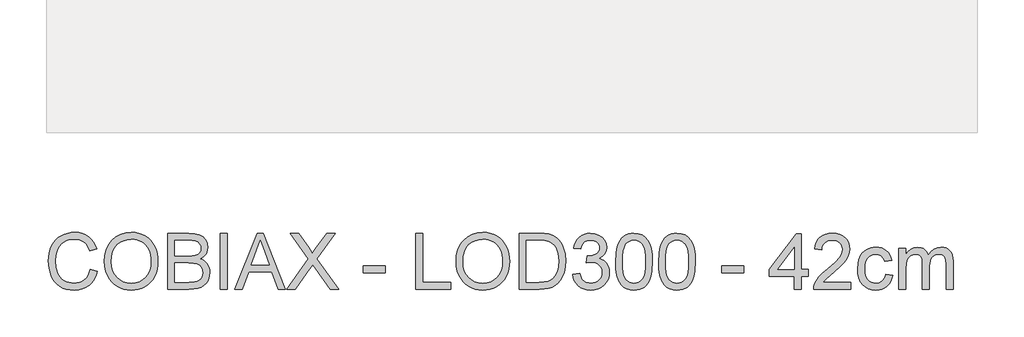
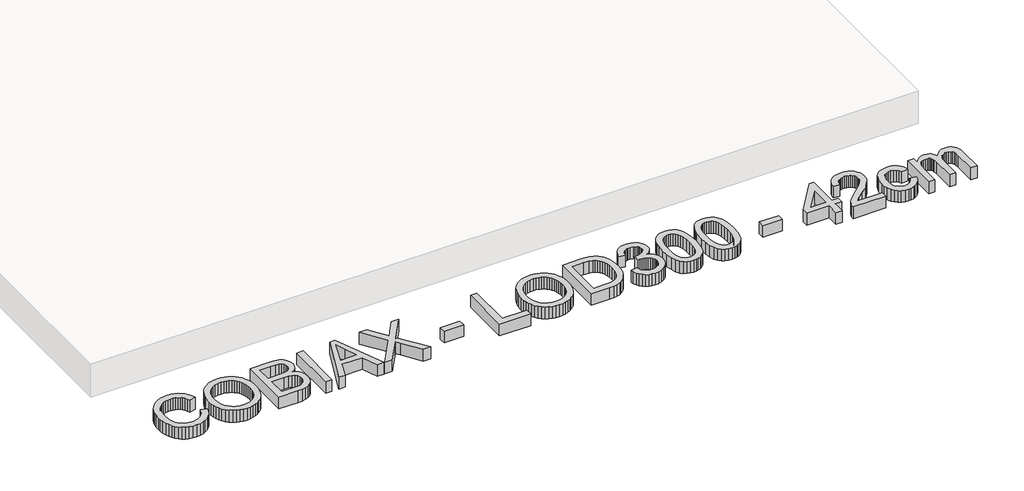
# One storey, part 2 of 18: 1 proxy.
"""IFC4 building model written with IfcOpenShell, lengths in millimetres."""

from ifc_helpers import new_model, si_unit, origin, origin_with_axes, place, context, project, spatial, polyline, outline, extrude, element, save

model = new_model("IFC4")

# Units and contexts
model_context = context("Model", 3, world=origin())
ifc_project = project(units=[si_unit("LENGTHUNIT", "METRE", prefix="MILLI")], contexts=[model_context])

# Site, building, storey
site = spatial("IfcSite", under=ifc_project)
building = spatial("IfcBuilding", under=site)
storey = spatial("IfcBuildingStorey", under=building, Name="COBIAX Slabs", Elevation=0.0)

# Proxy
placement = place(None, origin())
element("IfcBuildingElementProxy", 1, Name="600mm Arial", ObjectType="600mm Arial", at=placement, inside=storey, context=model_context, shape_type="SweptSolid", body=[
    extrude(outline(polyline([(-20201.7846047, -42740.3003464), (-20126.4423721, -42759.7245158), (-20141.35079, -42806.5788864), (-20161.2072206, -42847.5195539), (-20186.0116642, -42882.5465184), (-20215.7641205, -42911.6597798), (-20249.7932051, -42934.5466384), (-20287.4275332, -42950.8943946), (-20328.6671048, -42960.7030482), (-20373.5119201, -42963.9725995), (-20419.4557827, -42961.4985931), (-20460.902288, -42954.0765738), (-20497.8514359, -42941.7065417), (-20530.3032264, -42924.3884968), (-20558.7037164, -42902.3799564), (-20583.4989629, -42875.938438), (-20604.6889658, -42845.0639416), (-20622.2737252, -42809.7564671), (-20636.0830956, -42771.5427249), (-20645.9469316, -42731.9494251), (-20651.8652332, -42690.9765679), (-20653.8380004, -42648.6241532), (-20651.6077158, -42603.1815298), (-20644.916862, -42560.7371446), (-20633.765439, -42521.2909976), (-20618.1534469, -42484.843089), (-20598.4303734, -42451.9958253), (-20574.9457065, -42423.3516135), (-20547.6994462, -42398.9104534), (-20516.6915926, -42378.6723452), (-20482.9752077, -42362.8028356), (-20447.6033539, -42351.4674716), (-20410.5760311, -42344.6662532), (-20371.8932393, -42342.3991804), (-20328.8004621, -42345.3330393), (-20289.2853373, -42354.1346161), (-20253.3478649, -42368.8039106), (-20220.9880449, -42389.340923), (-20192.7393062, -42415.2030273), (-20169.1350776, -42445.8475975), (-20150.1753593, -42481.2746336), (-20135.8601512, -42521.4841357), (-20211.2023838, -42539.436777), (-20223.0665781, -42509.8084809), (-20237.3220054, -42484.4936011), (-20253.9686657, -42463.4921377), (-20273.006559, -42446.8040907), (-20294.5460498, -42434.0891692), (-20318.6975028, -42425.0070824), (-20345.4609179, -42419.5578304), (-20374.8362952, -42417.741413), (-20408.6354535, -42419.755567), (-20439.5467382, -42425.7980287), (-20467.5701492, -42435.8687984), (-20492.7056865, -42449.9678758), (-20514.6360519, -42467.4606647), (-20533.0439473, -42487.7125685), (-20547.9293725, -42510.7235873), (-20559.2923276, -42536.4937211), (-20573.6949077, -42591.6392322), (-20578.4957678, -42648.4770004), (-20572.8119909, -42718.0802739), (-20565.7072699, -42749.3502435), (-20555.7606605, -42778.2657683), (-20542.8112142, -42804.2520328), (-20526.6979829, -42826.7342212), (-20507.4209663, -42845.7123336), (-20484.9801646, -42861.18637), (-20460.4654281, -42873.1931186), (-20434.9666074, -42881.7693677), (-20408.4837022, -42886.9151171), (-20381.0167128, -42888.6303669), (-20348.2614196, -42886.2943162), (-20318.1272857, -42879.2861642), (-20290.614311, -42867.6059108), (-20265.7224955, -42851.2535562), (-20244.0404504, -42830.3026765), (-20226.1567869, -42804.8268484), (-20212.071505, -42774.8260717), (-20201.7846047, -42740.3003464)])), origin_with_axes(), (0.0, 0.0, 1.0), 150.0),
    extrude(outline(polyline([(-20051.1001395, -42661.1321411), (-20046.0785503, -42590.4344186), (-20031.0137825, -42527.8484942), (-20005.9058364, -42473.3743678), (-19989.5856714, -42449.1792288), (-19970.7547117, -42427.0120393), (-19927.6665331, -42389.9939136), (-19878.7474247, -42363.5523952), (-19823.9973868, -42347.6874841), (-19763.4164193, -42342.3991804), (-19722.8666263, -42344.8823839), (-19684.3585785, -42352.3319943), (-19647.8922757, -42364.7480116), (-19613.467718, -42382.1304359), (-19582.0505956, -42403.9550353), (-19554.6065988, -42429.6975779), (-19531.1357275, -42459.3580637), (-19511.6379818, -42492.9364929), (-19496.3156967, -42529.6695101), (-19485.3712073, -42568.7937603), (-19478.8045137, -42610.3092434), (-19476.6156158, -42654.2159595), (-19478.9194768, -42698.7020898), (-19485.8310598, -42740.778593), (-19497.3503648, -42780.4454691), (-19513.4773917, -42817.7027182), (-19533.8304631, -42851.5662559), (-19558.0279014, -42881.0519978), (-19586.0697064, -42906.1599439), (-19617.9558784, -42926.8900944), (-19652.4310198, -42943.1136904), (-19688.2397335, -42954.7019732), (-19725.3820195, -42961.6549429), (-19763.8578777, -42963.9725995), (-19805.1158434, -42961.4112211), (-19844.129729, -42953.7270859), (-19880.8995344, -42940.920194), (-19915.4252597, -42922.9905452), (-19946.8055939, -42900.632517), (-19974.1392261, -42874.5404865), (-19997.4261564, -42844.7144537), (-20016.6663847, -42811.1544187), (-20031.7311524, -42775.2077492), (-20042.4917008, -42738.2218131), (-20048.9480298, -42700.1966104), (-20051.1001395, -42661.1321411)]), holes=[polyline([(-19975.7579069, -42661.867905), (-19971.9917149, -42711.8170829), (-19960.6931392, -42756.1560604), (-19941.8621795, -42794.8848374), (-19915.4988361, -42828.0034141), (-19883.4517158, -42854.5277059), (-19847.5694257, -42873.4736287), (-19807.8519657, -42884.8411823), (-19764.299336, -42888.6303669), (-19720.0017453, -42884.8043941), (-19679.8152359, -42873.3264759), (-19643.7398077, -42854.1966121), (-19611.7754608, -42827.4148029), (-19585.6052554, -42793.5972505), (-19566.9122515, -42753.3601572), (-19555.6964492, -42706.7035232), (-19551.9578484, -42653.6273484), (-19553.5581351, -42619.1476084), (-19558.3589951, -42586.9303426), (-19566.3604285, -42556.9755512), (-19577.5624353, -42529.283234), (-19591.8408552, -42504.2166745), (-19609.0715282, -42482.1391563), (-19629.2544541, -42463.0506793), (-19652.3896331, -42446.9512435), (-19677.7596952, -42434.1719427), (-19704.6472705, -42425.0438706), (-19733.0523591, -42419.5670274), (-19762.9749609, -42417.741413), (-19805.0146759, -42421.2592846), (-19844.0193644, -42431.8128994), (-19879.9890265, -42449.4022573), (-19912.9236621, -42474.0273583), (-19940.4136442, -42506.874622), (-19960.0493457, -42549.1304676), (-19971.8307666, -42600.7948953), (-19975.7579069, -42661.867905)])]), origin_with_axes(), (0.0, 0.0, 1.0), 150.0),
    extrude(outline(polyline([(-19373.020046, -42954.5548204), (-19373.020046, -42351.8169595), (-19143.0202226, -42351.8169595), (-19079.7629135, -42356.2499375), (-19030.3747557, -42369.5488717), (-19010.2975958, -42379.6058457), (-18992.5196984, -42392.0448557), (-18977.0410634, -42406.8659016), (-18963.8616909, -42424.0689834), (-18945.8170791, -42461.7400997), (-18939.8022085, -42501.1770495), (-18944.8605859, -42537.4686084), (-18960.0357182, -42571.5896634), (-18985.43797, -42601.4432873), (-19021.1777058, -42624.9325527), (-18998.438, -42634.6262433), (-18978.4850002, -42647.2262016), (-18961.3187066, -42662.7324277), (-18946.9391192, -42681.1449216), (-18935.576164, -42701.9026632), (-18927.4597675, -42724.4446324), (-18922.5899296, -42748.7708294), (-18920.9666503, -42774.881254), (-18925.3996283, -42816.9117719), (-18938.6985625, -42855.8888693), (-18958.5457961, -42889.0350371), (-18982.6236727, -42913.5727661), (-19012.1094146, -42931.3414665), (-19048.1802442, -42944.1805481), (-19092.013384, -42951.9612523), (-19144.7860562, -42954.5548204), (-19373.020046, -42954.5548204)]), holes=[polyline([(-19297.6778134, -42596.6792155), (-19160.0899472, -42596.6792155), (-19111.9709822, -42595.0605347), (-19079.7445194, -42590.2044924), (-19051.6199409, -42579.0392738), (-19031.4048253, -42562.3190371), (-19019.2095371, -42540.3012997), (-19015.1444411, -42513.243579), (-19018.9336256, -42486.9768045), (-19030.3011793, -42464.0945444), (-19048.7320672, -42446.2338736), (-19073.7112547, -42435.0318668), (-19112.0445586, -42429.1273608), (-19170.5377958, -42427.1591921), (-19297.6778134, -42427.1591921), (-19297.6778134, -42596.6792155)]), polyline([(-19297.6778134, -42879.2125878), (-19143.1673754, -42879.2125878), (-19087.2493121, -42876.2695318), (-19061.2952374, -42869.7396264), (-19039.9396875, -42859.8619948), (-19022.5756574, -42845.7169321), (-19008.5961416, -42826.3847333), (-18999.3806976, -42802.729921), (-18996.3088829, -42775.617018), (-18999.9141265, -42744.1263192), (-19010.7298571, -42717.0502043), (-19029.6205976, -42695.8785955), (-19057.4508705, -42682.1014148), (-19096.8694263, -42674.5414398), (-19150.5250153, -42672.0214481), (-19297.6778134, -42672.0214481), (-19297.6778134, -42879.2125878)])]), origin_with_axes(), (0.0, 0.0, 1.0), 150.0),
    extrude(outline(polyline([(-18807.9533014, -42954.5548204), (-18807.9533014, -42351.8169595), (-18732.6110688, -42351.8169595), (-18732.6110688, -42954.5548204), (-18807.9533014, -42954.5548204)])), origin_with_axes(), (0.0, 0.0, 1.0), 150.0),
    extrude(outline(polyline([(-18652.1184882, -42954.5548204), (-18411.5236634, -42351.8169595), (-18347.3650434, -42351.8169595), (-18106.7702186, -42954.5548204), (-18186.3798823, -42954.5548204), (-18255.3945446, -42766.1992389), (-18503.641315, -42766.1992389), (-18572.5088245, -42954.5548204), (-18652.1184882, -42954.5548204)]), holes=[polyline([(-18475.9765889, -42690.8570063), (-18282.9121179, -42690.8570063), (-18337.2115004, -42542.6741386), (-18379.4443534, -42427.1591921), (-18416.9683169, -42529.7246924), (-18475.9765889, -42690.8570063)])]), origin_with_axes(), (0.0, 0.0, 1.0), 150.0),
    extrude(outline(polyline([(-18092.2020916, -42954.5548204), (-17859.8478234, -42626.1097751), (-18054.5309753, -42351.8169595), (-17964.1791572, -42351.8169595), (-17854.5503227, -42506.1802447), (-17828.3939128, -42545.2861008), (-17817.6149704, -42566.3657391), (-17774.3520477, -42505.1501751), (-17665.9004356, -42351.8169595), (-17574.2242424, -42351.8169595), (-17768.9073942, -42626.9926919), (-17536.5531261, -42954.5548204), (-17626.9049441, -42954.5548204), (-17781.7096876, -42736.1800681), (-17813.9361504, -42690.8570063), (-17849.3999748, -42740.594652), (-18000.5258984, -42954.5548204), (-18092.2020916, -42954.5548204)])), origin_with_axes(), (0.0, 0.0, 1.0), 150.0),
    extrude(outline(polyline([(-17272.8553119, -42775.617018), (-17272.8553119, -42700.2747853), (-17037.410835, -42700.2747853), (-17037.410835, -42775.617018), (-17272.8553119, -42775.617018)])), origin_with_axes(), (0.0, 0.0, 1.0), 150.0),
    extrude(outline(polyline([(-16707.7885673, -42954.5548204), (-16707.7885673, -42351.8169595), (-16632.4463347, -42351.8169595), (-16632.4463347, -42879.2125878), (-16331.0774043, -42879.2125878), (-16331.0774043, -42954.5548204), (-16707.7885673, -42954.5548204)])), origin_with_axes(), (0.0, 0.0, 1.0), 150.0),
    extrude(outline(polyline([(-16274.5707298, -42661.1321411), (-16269.5491406, -42590.4344186), (-16254.4843729, -42527.8484942), (-16229.3764267, -42473.3743678), (-16213.0562617, -42449.1792288), (-16194.2253021, -42427.0120393), (-16151.1371234, -42389.9939136), (-16102.2180151, -42363.5523952), (-16047.4679771, -42347.6874841), (-15986.8870096, -42342.3991804), (-15946.3372167, -42344.8823839), (-15907.8291688, -42352.3319943), (-15871.362866, -42364.7480116), (-15836.9383083, -42382.1304359), (-15805.5211859, -42403.9550353), (-15778.0771891, -42429.6975779), (-15754.6063178, -42459.3580637), (-15735.1085721, -42492.9364929), (-15719.786287, -42529.6695101), (-15708.8417976, -42568.7937603), (-15702.275104, -42610.3092434), (-15700.0862061, -42654.2159595), (-15702.3900671, -42698.7020898), (-15709.3016501, -42740.778593), (-15720.8209551, -42780.4454691), (-15736.947982, -42817.7027182), (-15757.3010534, -42851.5662559), (-15781.4984917, -42881.0519978), (-15809.5402967, -42906.1599439), (-15841.4264687, -42926.8900944), (-15875.9016102, -42943.1136904), (-15911.7103239, -42954.7019732), (-15948.8526098, -42961.6549429), (-15987.328468, -42963.9725995), (-16028.5864337, -42961.4112211), (-16067.6003193, -42953.7270859), (-16104.3701247, -42940.920194), (-16138.89585, -42922.9905452), (-16170.2761842, -42900.632517), (-16197.6098164, -42874.5404865), (-16220.8967467, -42844.7144537), (-16240.1369751, -42811.1544187), (-16255.2017428, -42775.2077492), (-16265.9622911, -42738.2218131), (-16272.4186201, -42700.1966104), (-16274.5707298, -42661.1321411)]), holes=[polyline([(-16199.2284972, -42661.867905), (-16195.4623053, -42711.8170829), (-16184.1637295, -42756.1560604), (-16165.3327699, -42794.8848374), (-16138.9694264, -42828.0034141), (-16106.9223061, -42854.5277059), (-16071.040016, -42873.4736287), (-16031.3225561, -42884.8411823), (-15987.7699264, -42888.6303669), (-15943.4723356, -42884.8043941), (-15903.2858262, -42873.3264759), (-15867.210398, -42854.1966121), (-15835.2460512, -42827.4148029), (-15809.0758457, -42793.5972505), (-15790.3828418, -42753.3601572), (-15779.1670395, -42706.7035232), (-15775.4284387, -42653.6273484), (-15777.0287254, -42619.1476084), (-15781.8295855, -42586.9303426), (-15789.8310189, -42556.9755512), (-15801.0330256, -42529.283234), (-15815.3114455, -42504.2166745), (-15832.5421185, -42482.1391563), (-15852.7250445, -42463.0506793), (-15875.8602234, -42446.9512435), (-15901.2302855, -42434.1719427), (-15928.1178608, -42425.0438706), (-15956.5229494, -42419.5670274), (-15986.4455512, -42417.741413), (-16028.4852662, -42421.2592846), (-16067.4899547, -42431.8128994), (-16103.4596168, -42449.4022573), (-16136.3942524, -42474.0273583), (-16163.8842345, -42506.874622), (-16183.519936, -42549.1304676), (-16195.3013569, -42600.7948953), (-16199.2284972, -42661.867905)])]), origin_with_axes(), (0.0, 0.0, 1.0), 150.0),
    extrude(outline(polyline([(-15596.4906363, -42954.5548204), (-15596.4906363, -42351.8169595), (-15388.5637326, -42351.8169595), (-15326.4284636, -42353.9874633), (-15280.9950372, -42360.4989746), (-15232.9496487, -42377.2376054), (-15192.4090528, -42403.6147444), (-15170.0694186, -42425.1726293), (-15150.7280227, -42449.5264174), (-15134.3848651, -42476.6761087), (-15121.0399457, -42506.6217031), (-15110.6748705, -42539.0872892), (-15103.2712454, -42573.7969554), (-15097.3483452, -42649.9485284), (-15101.358259, -42714.6405773), (-15113.3880002, -42771.570316), (-15131.7085236, -42820.0387689), (-15154.5907837, -42859.3469601), (-15180.9311345, -42890.3778063), (-15209.6259302, -42914.0142245), (-15242.5697628, -42931.5438016), (-15281.6572248, -42944.2541245), (-15326.9618925, -42951.9796464), (-15378.5573423, -42954.5548204), (-15596.4906363, -42954.5548204)]), holes=[polyline([(-15521.1484037, -42879.2125878), (-15387.8279686, -42879.2125878), (-15332.6824575, -42876.490261), (-15290.8542747, -42868.3232807), (-15259.2899995, -42855.1898935), (-15234.9362114, -42837.5683459), (-15208.7614075, -42804.9556071), (-15189.0981148, -42762.7411481), (-15176.7924621, -42710.7410281), (-15172.6905778, -42648.771306), (-15174.7001332, -42605.0301368), (-15180.7287994, -42566.6600447), (-15190.7765764, -42533.6610297), (-15204.8434642, -42506.0330919), (-15221.7890286, -42483.1508318), (-15240.4728355, -42464.38885), (-15260.8948847, -42449.7471466), (-15283.0551764, -42439.2257216), (-15326.3916754, -42430.1758245), (-15389.8881078, -42427.1591921), (-15521.1484037, -42427.1591921), (-15521.1484037, -42879.2125878)])]), origin_with_axes(), (0.0, 0.0, 1.0), 150.0),
    extrude(outline(polyline([(-15022.0061126, -42794.4525761), (-14946.66388, -42785.034797), (-14929.7964905, -42832.3812098), (-14918.4243384, -42850.2878659), (-14905.0932146, -42864.3501552), (-14889.4996165, -42874.9727478), (-14871.3400415, -42882.5603139), (-14850.6144896, -42887.1128536), (-14827.3229608, -42888.6303669), (-14800.0261167, -42886.5426365), (-14775.6723287, -42880.2794456), (-14754.2615965, -42869.840794), (-14735.7939204, -42855.2266817), (-14720.9222907, -42837.5315577), (-14710.2996981, -42817.849871), (-14703.9261425, -42796.1816215), (-14701.801624, -42772.5268092), (-14703.9077484, -42749.9986355), (-14710.2261217, -42729.5030099), (-14720.7567438, -42711.0399322), (-14735.4996148, -42694.6094026), (-14753.4890443, -42681.121929), (-14773.7593423, -42671.4880192), (-14796.3105086, -42665.7076734), (-14821.1425433, -42663.7808914), (-14844.9445083, -42665.8410306), (-14873.9703978, -42672.0214481), (-14865.5826883, -42596.6792155), (-14853.5161588, -42597.5621323), (-14808.377038, -42592.154267), (-14768.0203832, -42575.930671), (-14751.4105111, -42563.6618064), (-14739.5463167, -42548.4866741), (-14732.4278001, -42530.4052741), (-14730.0549612, -42509.4176062), (-14731.7748096, -42492.3800713), (-14736.9343546, -42476.8784438), (-14745.5335962, -42462.9127235), (-14757.5725345, -42450.4829106), (-14772.3246025, -42440.2787838), (-14789.0632333, -42432.9901217), (-14828.5001832, -42427.1591921), (-14849.1567572, -42428.6307201), (-14868.0107094, -42433.045304), (-14885.0620399, -42440.4029439), (-14900.3107486, -42450.7036398), (-14913.3797565, -42463.9473916), (-14923.8919845, -42480.1341994), (-14931.8474327, -42499.2640632), (-14937.2461009, -42521.3369829), (-15012.5883335, -42511.9192038), (-15003.6579981, -42475.9495417), (-14990.4050492, -42444.2657049), (-14972.8294869, -42416.8676933), (-14950.9313112, -42393.755507), (-14925.4003007, -42375.4073924), (-14896.9262343, -42362.3015964), (-14865.5091119, -42354.4381187), (-14831.1489335, -42351.8169595), (-14783.7841266, -42356.9857015), (-14740.2820807, -42372.4919276), (-14703.6042458, -42396.9560803), (-14676.7120719, -42428.9986021), (-14660.2125645, -42465.9155603), (-14654.7127286, -42505.0030223), (-14659.936653, -42541.4233398), (-14675.608426, -42574.459143), (-14701.5073184, -42602.6021156), (-14737.4126012, -42624.3439415), (-14712.304655, -42632.1982221), (-14690.2501294, -42643.4002289), (-14671.2490243, -42657.9499618), (-14655.3013398, -42675.8474209), (-14642.6829874, -42696.6511477), (-14633.6698785, -42719.9196839), (-14628.2620132, -42745.6530294), (-14626.4593914, -42773.8511844), (-14630.064635, -42812.0741237), (-14640.8803656, -42847.2804306), (-14658.9065834, -42879.4701052), (-14684.1432883, -42908.6431474), (-14714.889026, -42932.8497827), (-14749.4423424, -42950.1402365), (-14787.8032374, -42960.5145087), (-14829.9717111, -42963.9725995), (-14868.0842858, -42961.0203465), (-14902.8123462, -42952.1635874), (-14934.1558922, -42937.4023224), (-14962.1149238, -42916.7365513), (-14985.5582039, -42891.3802848), (-15003.3544955, -42862.5475334), (-15015.5037984, -42830.2382972), (-15022.0061126, -42794.4525761)])), origin_with_axes(), (0.0, 0.0, 1.0), 150.0),
    extrude(outline(polyline([(-14560.5349379, -42658.0419323), (-14554.9983138, -42561.5648791), (-14548.0775338, -42520.6518027), (-14538.3884418, -42484.6223598), (-14525.9724244, -42453.1822448), (-14510.8708685, -42426.037152), (-14493.0837741, -42403.1870816), (-14472.611141, -42384.6320335), (-14449.3839916, -42370.2754386), (-14423.3333478, -42360.020728), (-14394.4592097, -42353.8679016), (-14362.7615773, -42351.8169595), (-14316.3348695, -42356.6730018), (-14274.764204, -42371.2411289), (-14239.9993555, -42394.9511234), (-14213.9900984, -42427.2327685), (-14194.3451999, -42467.8101526), (-14178.6734269, -42516.4073642), (-14168.4095192, -42578.1195688), (-14164.9882167, -42658.0419323), (-14170.4696584, -42753.9671625), (-14177.3214605, -42794.7422832), (-14186.9139836, -42830.7257408), (-14199.2334319, -42862.1796514), (-14214.2660099, -42889.3661309), (-14232.0117177, -42912.2851792), (-14252.4705551, -42930.9367963), (-14275.7252957, -42945.3899602), (-14301.858713, -42955.7136487), (-14330.8708068, -42961.9078618), (-14362.7615773, -42963.9725995), (-14404.2586663, -42960.38575), (-14441.0468658, -42949.6252017), (-14473.1261758, -42931.6909544), (-14500.4965963, -42906.5830082), (-14526.7633707, -42861.1955671), (-14545.5253525, -42804.6429074), (-14556.7825415, -42736.9250291), (-14560.5349379, -42658.0419323)]), holes=[polyline([(-14485.1927053, -42657.8947795), (-14482.9854133, -42723.3915702), (-14476.3635374, -42776.4079642), (-14465.3270775, -42816.9439616), (-14449.8760337, -42844.9995622), (-14431.1876284, -42864.0880393), (-14410.4390838, -42877.7226657), (-14387.6304001, -42885.9034416), (-14362.7615773, -42888.6303669), (-14337.8927544, -42885.8942445), (-14315.0840707, -42877.6858775), (-14294.3355262, -42864.0052658), (-14275.6471208, -42844.8524094), (-14260.196077, -42816.7508235), (-14249.1596172, -42776.2240232), (-14242.5377412, -42723.2720086), (-14240.3304493, -42657.8947795), (-14242.4641648, -42594.1316327), (-14248.8653116, -42542.0487392), (-14259.5338894, -42501.6460991), (-14274.4698984, -42472.9237123), (-14292.8456041, -42452.9017347), (-14313.8332719, -42438.6003222), (-14337.4329019, -42430.0194746), (-14363.6444941, -42427.1591921), (-14388.3845582, -42429.6791838), (-14410.8069658, -42437.2391588), (-14430.9117169, -42449.8391171), (-14448.6988113, -42467.4790588), (-14464.6648899, -42498.7490284), (-14476.0692318, -42540.908305), (-14482.9118369, -42593.9568887), (-14485.1927053, -42657.8947795)])]), origin_with_axes(), (0.0, 0.0, 1.0), 150.0),
    extrude(outline(polyline([(-14099.0637631, -42658.0419323), (-14093.5271391, -42561.5648791), (-14086.6063591, -42520.6518027), (-14076.917267, -42484.6223598), (-14064.5012497, -42453.1822448), (-14049.3996938, -42426.037152), (-14031.6125993, -42403.1870816), (-14011.1399663, -42384.6320335), (-13987.9128168, -42370.2754386), (-13961.862173, -42360.020728), (-13932.9880349, -42353.8679016), (-13901.2904025, -42351.8169595), (-13854.8636947, -42356.6730018), (-13813.2930293, -42371.2411289), (-13778.5281807, -42394.9511234), (-13752.5189237, -42427.2327685), (-13732.8740251, -42467.8101526), (-13717.2022521, -42516.4073642), (-13706.9383445, -42578.1195688), (-13703.5170419, -42658.0419323), (-13708.9984836, -42753.9671625), (-13715.8502858, -42794.7422832), (-13725.4428088, -42830.7257408), (-13737.7622571, -42862.1796514), (-13752.7948352, -42889.3661309), (-13770.5405429, -42912.2851792), (-13790.9993804, -42930.9367963), (-13814.254121, -42945.3899602), (-13840.3875382, -42955.7136487), (-13869.3996321, -42961.9078618), (-13901.2904025, -42963.9725995), (-13942.7874916, -42960.38575), (-13979.5756911, -42949.6252017), (-14011.6550011, -42931.6909544), (-14039.0254215, -42906.5830082), (-14065.292196, -42861.1955671), (-14084.0541777, -42804.6429074), (-14095.3113668, -42736.9250291), (-14099.0637631, -42658.0419323)]), holes=[polyline([(-14023.7215305, -42657.8947795), (-14021.5142385, -42723.3915702), (-14014.8923626, -42776.4079642), (-14003.8559028, -42816.9439616), (-13988.404859, -42844.9995622), (-13969.7164536, -42864.0880393), (-13948.9679091, -42877.7226657), (-13926.1592254, -42885.9034416), (-13901.2904025, -42888.6303669), (-13876.4215796, -42885.8942445), (-13853.6128959, -42877.6858775), (-13832.8643514, -42864.0052658), (-13814.1759461, -42844.8524094), (-13798.7249023, -42816.7508235), (-13787.6884424, -42776.2240232), (-13781.0665665, -42723.2720086), (-13778.8592745, -42657.8947795), (-13780.9929901, -42594.1316327), (-13787.3941368, -42542.0487392), (-13798.0627147, -42501.6460991), (-13812.9987237, -42472.9237123), (-13831.3744293, -42452.9017347), (-13852.3620972, -42438.6003222), (-13875.9617271, -42430.0194746), (-13902.1733193, -42427.1591921), (-13926.9133835, -42429.6791838), (-13949.3357911, -42437.2391588), (-13969.4405421, -42449.8391171), (-13987.2276366, -42467.4790588), (-14003.1937152, -42498.7490284), (-14014.598057, -42540.908305), (-14021.4406621, -42593.9568887), (-14023.7215305, -42657.8947795)])]), origin_with_axes(), (0.0, 0.0, 1.0), 150.0),
    extrude(outline(polyline([(-13420.9836696, -42775.617018), (-13420.9836696, -42700.2747853), (-13185.5391927, -42700.2747853), (-13185.5391927, -42775.617018), (-13420.9836696, -42775.617018)])), origin_with_axes(), (0.0, 0.0, 1.0), 150.0),
    extrude(outline(polyline([(-12639.3080063, -42954.5548204), (-12639.3080063, -42813.2881343), (-12912.4235995, -42813.2881343), (-12912.4235995, -42737.9459016), (-12620.4724481, -42361.2347386), (-12563.9657736, -42361.2347386), (-12563.9657736, -42737.9459016), (-12488.623541, -42737.9459016), (-12488.623541, -42813.2881343), (-12563.9657736, -42813.2881343), (-12563.9657736, -42954.5548204), (-12639.3080063, -42954.5548204)]), holes=[polyline([(-12639.3080063, -42737.9459016), (-12639.3080063, -42505.1501751), (-12819.7173367, -42737.9459016), (-12639.3080063, -42737.9459016)])]), origin_with_axes(), (0.0, 0.0, 1.0), 150.0),
    extrude(outline(polyline([(-12036.5701454, -42879.2125878), (-12036.5701454, -42954.5548204), (-12432.1168666, -42954.5548204), (-12430.4613976, -42928.0305286), (-12424.0234627, -42902.6098827), (-12405.4454219, -42862.0141045), (-12378.2589425, -42822.6323369), (-12338.9323572, -42781.4111594), (-12283.9339989, -42735.2971513), (-12202.632078, -42663.0819156), (-12153.8509254, -42609.7758145), (-12139.6230893, -42587.9972004), (-12129.4603491, -42566.5128919), (-12123.3627051, -42545.322889), (-12121.3301571, -42524.4271916), (-12123.247742, -42504.7684975), (-12129.0004967, -42486.700893), (-12138.5884211, -42470.2243782), (-12152.0115154, -42455.338953), (-12168.5248185, -42443.0103076), (-12187.3833693, -42434.2041323), (-12208.5871678, -42428.9204272), (-12232.136214, -42427.1591921), (-12256.945256, -42428.8790404), (-12279.1331389, -42434.0385854), (-12298.6998625, -42442.6378271), (-12315.6454269, -42454.6767654), (-12329.3536297, -42469.7507301), (-12339.2082687, -42487.4550511), (-12345.2093437, -42507.7897284), (-12347.3568549, -42530.754762), (-12422.6990875, -42521.3369829), (-12416.2197659, -42482.4426589), (-12404.4337464, -42448.4595596), (-12387.3410292, -42419.387685), (-12364.9416143, -42395.2270349), (-12337.7505363, -42376.2351269), (-12306.2828301, -42362.6694784), (-12270.5384958, -42354.5300892), (-12230.5175332, -42351.8169595), (-12190.1378857, -42354.8335919), (-12154.2004133, -42363.8834889), (-12122.705116, -42378.9666508), (-12095.6519938, -42400.0830773), (-12073.9239634, -42425.66927), (-12058.4039418, -42454.1617306), (-12049.0919288, -42485.5604589), (-12045.9879244, -42519.8654549), (-12049.3356506, -42555.8994963), (-12059.3788291, -42591.3081384), (-12077.2027117, -42627.3237857), (-12103.8925505, -42665.178843), (-12146.4381032, -42710.3731461), (-12211.8291279, -42768.4065308), (-12298.5021259, -42840.8792839), (-12332.4944223, -42879.2125878), (-12036.5701454, -42879.2125878)])), origin_with_axes(), (0.0, 0.0, 1.0), 150.0),
    extrude(outline(polyline([(-11659.8589823, -42794.4525761), (-11584.5167497, -42803.8703552), (-11592.7113211, -42839.4215515), (-11605.5228116, -42870.8800606), (-11622.9512211, -42898.2458825), (-11644.9965497, -42921.5190172), (-11670.7298953, -42940.0924595), (-11699.2223558, -42953.3592039), (-11730.4739313, -42961.3192506), (-11764.4846217, -42963.9725995), (-11806.7404674, -42960.2707869), (-11844.6277144, -42949.1653492), (-11878.1463627, -42930.6562863), (-11907.2964123, -42904.7435983), (-11930.8914437, -42871.9147287), (-11947.7450376, -42832.6571213), (-11957.857194, -42786.970776), (-11961.2279127, -42734.8556929), (-11955.4705595, -42667.8091993), (-11948.273868, -42637.6382771), (-11938.1984999, -42609.7022381), (-11925.1754772, -42584.5621023), (-11909.1358222, -42562.7788896), (-11890.0795349, -42544.3526002), (-11868.0066152, -42529.283234), (-11843.914943, -42517.5661924), (-11818.8023983, -42509.196877), (-11792.6689811, -42504.1752878), (-11765.5146913, -42502.5014247), (-11732.0880135, -42504.8006872), (-11701.8527121, -42511.6984746), (-11674.8087869, -42523.194787), (-11650.956238, -42539.2896243), (-11630.6997357, -42559.6151045), (-11614.44395, -42583.8033457), (-11602.188881, -42611.8543478), (-11593.9345288, -42643.7681109), (-11669.2767614, -42653.18589), (-11682.9435775, -42620.3156337), (-11704.2255509, -42596.7527919), (-11731.9454593, -42582.570941), (-11764.9260801, -42577.8436573), (-11790.5260685, -42580.170511), (-11813.6152622, -42587.1510718), (-11834.1936613, -42598.7853399), (-11852.2612658, -42615.0733153), (-11866.9719471, -42636.3920769), (-11877.4795765, -42663.1187038), (-11883.7841542, -42695.2531961), (-11885.8856801, -42732.7955537), (-11883.8301395, -42770.9035299), (-11877.6635175, -42803.4105027), (-11867.3858143, -42830.3164721), (-11852.9970298, -42851.6214382), (-11835.2881102, -42867.8128445), (-11815.050002, -42879.3781347), (-11792.282705, -42886.3173088), (-11766.9862193, -42888.6303669), (-11727.9723337, -42882.8546195), (-11711.1003457, -42875.6349354), (-11695.9849942, -42865.5273776), (-11683.0493436, -42852.4215815), (-11672.716458, -42836.2071826), (-11664.9863376, -42816.8841808), (-11659.8589823, -42794.4525761)])), origin_with_axes(), (0.0, 0.0, 1.0), 150.0),
    extrude(outline(polyline([(-11518.5922962, -42954.5548204), (-11518.5922962, -42511.9192038), (-11443.2500635, -42511.9192038), (-11443.2500635, -42584.7598389), (-11420.5885326, -42551.3009714), (-11391.4522786, -42525.0893792), (-11356.8345829, -42508.1484134), (-11317.7287268, -42502.5014247), (-11275.8269675, -42508.258778), (-11257.9938878, -42515.4554695), (-11242.2393414, -42525.5308376), (-11217.1497893, -42553.1771696), (-11200.7422523, -42590.0573396), (-11173.2798614, -42551.7516268), (-11141.9547095, -42524.3904034), (-11106.7667967, -42507.9736694), (-11067.7161229, -42502.5014247), (-11037.5543978, -42504.7776946), (-11011.0806897, -42511.6065041), (-10988.2949986, -42522.9878533), (-10969.1973246, -42538.9217423), (-10954.1003672, -42559.5921119), (-10943.3168262, -42585.1829031), (-10936.8467016, -42615.6941161), (-10934.6899934, -42651.1257508), (-10934.6899934, -42954.5548204), (-11010.032226, -42954.5548204), (-11010.032226, -42683.4993664), (-11011.7796655, -42645.9202206), (-11017.0219839, -42620.5915452), (-11026.8444332, -42603.2459091), (-11042.3322652, -42589.6158812), (-11062.2530752, -42580.7867133), (-11085.3744586, -42577.8436573), (-11106.7254099, -42579.7290526), (-11126.190966, -42585.3852382), (-11143.7711268, -42594.8122144), (-11159.4658925, -42608.0099809), (-11172.373952, -42625.3648141), (-11181.5939945, -42647.2629898), (-11187.12602, -42673.7045082), (-11188.9700285, -42704.6893693), (-11188.9700285, -42954.5548204), (-11264.3122611, -42954.5548204), (-11264.3122611, -42675.1116569), (-11268.6716627, -42632.5109218), (-11274.1209148, -42615.7906851), (-11281.7498677, -42602.123869), (-11291.862024, -42591.5012764), (-11304.7608865, -42583.9137103), (-11320.446455, -42579.3611706), (-11338.9187297, -42577.8436573), (-11367.9446191, -42581.8903593), (-11394.6896402, -42594.0304651), (-11416.7625599, -42613.9696693), (-11431.7721453, -42641.4136661), (-11440.380584, -42679.4894526), (-11443.2500635, -42731.3240257), (-11443.2500635, -42954.5548204), (-11518.5922962, -42954.5548204)])), origin_with_axes(), (0.0, 0.0, 1.0), 150.0),
])

save(model, "model.ifc")
